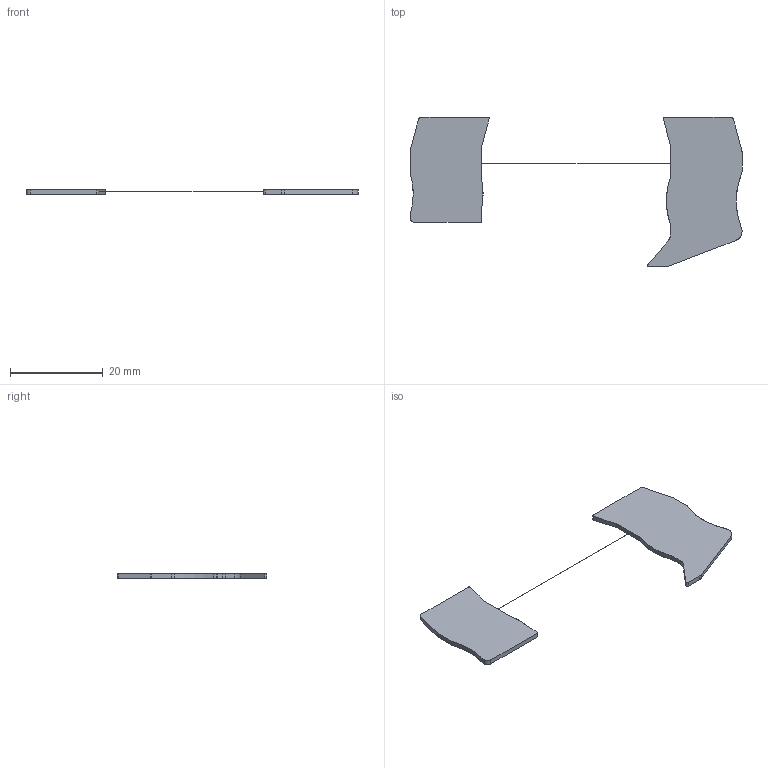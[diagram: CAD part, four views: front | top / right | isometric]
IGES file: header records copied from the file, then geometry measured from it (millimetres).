
Global section: file name: 3036615_ds-st_4-select.igs; native system: OneSpace Designer 3D IGES; preprocessor: 13.01  05-Feb-2005; date: 20051212.091550; units: millimetre
Bounding box: 71.5 x 32.25 x 1 mm (x, y, z)
Surface area: 1780.7 mm2 (no closed solid volume)
Topology: 0 solids, 0 shells, 52 faces, 388 edges, 388 vertices
Faces by surface type: bspline 52
